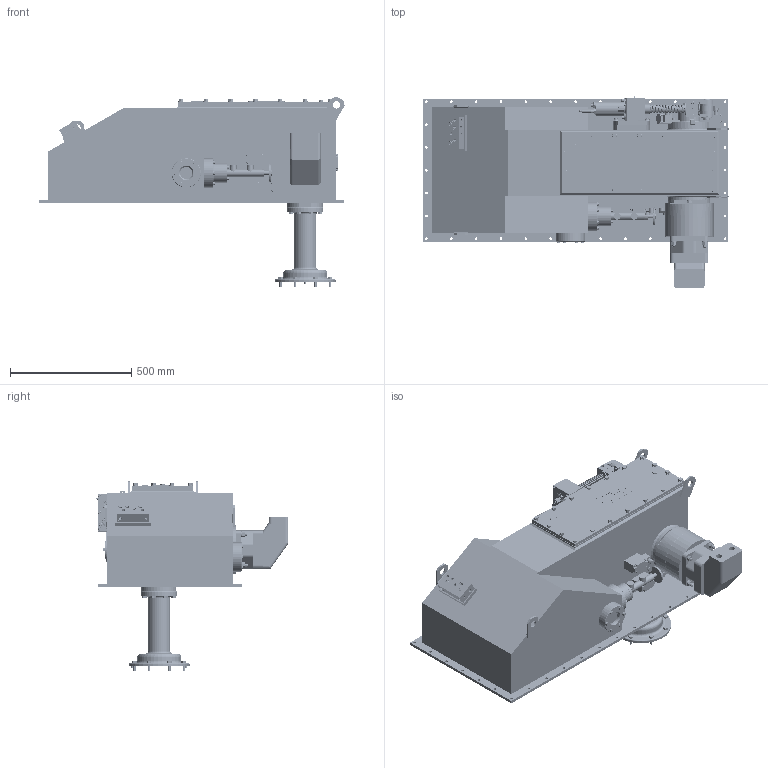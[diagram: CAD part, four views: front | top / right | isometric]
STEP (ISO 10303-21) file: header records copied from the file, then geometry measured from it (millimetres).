
FILE_DESCRIPTION((''),'2;1');
FILE_NAME('51000327_ASM','2009-01-12T',('rsam'),(''),'PRO/ENGINEER BY PARAMETRIC TECHNOLOGY CORPORATION, 2007030','PRO/ENGINEER BY PARAMETRIC TECHNOLOGY CORPORATION, 2007030','');
FILE_SCHEMA(('CONFIG_CONTROL_DESIGN'));
Length unit declared in the file: millimetre
Products named in the file (175): 55001516; 55001517; B11392-1; B11392-3; B11392-4_ASM; B11392-2; B11392_ASM; B11647; 55001522; B6590-1; B6590-3; B6590-4_ASM; B6590-2; B6590_ASM; B8303; B8159; 55001523; B1007; 55001524; 58000388_ASM; 55001238; 55001238-1; 55001238-3; 55001238-2; 55001238-5; 55001238-6; 55001238-10; 55001121; 55001238-22; 55001238-23; 55001238-24; 55001238-26; 55001238-30; 55001238_ASM; 55001521; B2428; B2421; 55001118; B0679; B7429-1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
Assembly tree (653 placements, depth 5):
  51000327_ASM
    55001516
    58000388_ASM
      55001517
      B11392_ASM
        B11392-1
        B11392-4_ASM
          B11392-3  x20
        B11392-2
      B11647  x2
      55001522
      B6590_ASM
        B6590-1
        B6590-4_ASM  x2
          B6590-3
        B6590-2
      B8303  x2
      B8159  x2
      55001523
      B1007
      55001524
    55001238_ASM
      55001238
      55001238-1
      55001238-3  x5
      55001238-2
      55001238-5  x4
      55001238-6
      55001238-10  x2
      55001121  x4
      55001238-22
      55001238-23
      55001238-24
      55001238-26  x2
      55001238-30  x2
    55001521
    B2428  x4
    B2421  x8
    55001118  x8
    B0679  x8
    B7429_ASM  x2
      B7429-1
      B7429-4_ASM
        B7429-3  x20
      B7429-2
    55001094
    55001095
    55001100
    55001277
    B6070  x4
    B7032  x2
    B9761  x4
    B7024  x4
    B8156
    B3741
    55001098
    B7562
    B0686  x20
    B1352  x16
    B1212  x6
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Bounding box: 1257.48 x 793.3 x 783.98 mm (x, y, z)
Volume: 45367043 mm3; surface area: 7975663.7 mm2
Topology: 785 solids, 785 shells, 13801 faces, 32224 edges, 20347 vertices
Faces by surface type: plane 5715, cylinder 4219, cone 2559, torus 751, bspline 406, extrusion 79, sphere 72
Entity records: 288712 total; most frequent: CARTESIAN_POINT 84778, DIRECTION 42224, ORIENTED_EDGE 40990, EDGE_CURVE 20495, AXIS2_PLACEMENT_3D 15795, VERTEX_POINT 13115, VECTOR 10634, LINE 10555
